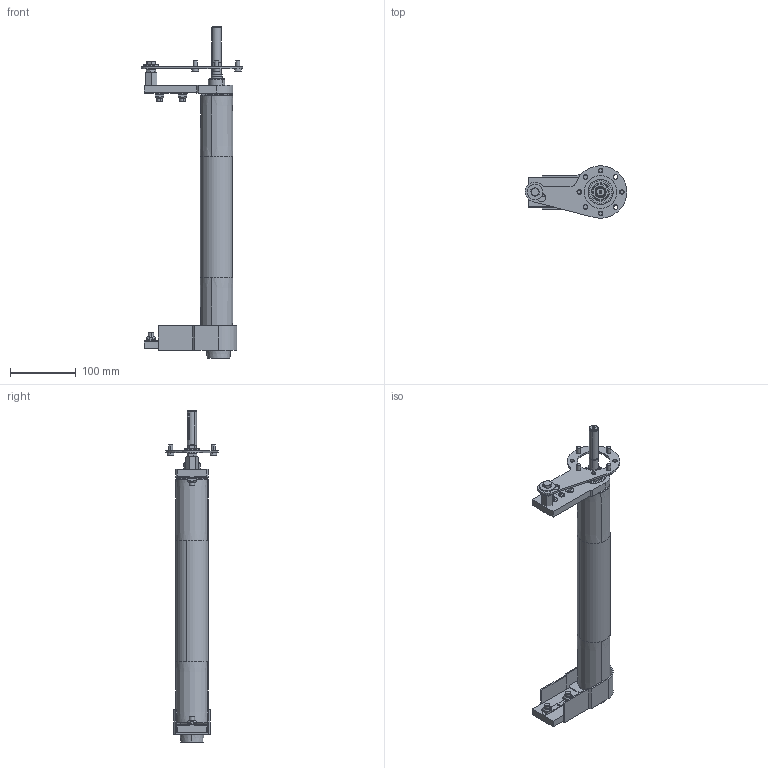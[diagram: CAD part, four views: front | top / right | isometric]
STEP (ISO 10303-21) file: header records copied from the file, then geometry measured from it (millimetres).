
FILE_DESCRIPTION (( 'STEP AP203' ), '1' );
FILE_NAME ('084.050.KDC.30.350.STEP', '2019-07-29T10:15:26', ( '' ), ( '' ), 'SwSTEP 2.0', 'SolidWorks 2018', '' );
FILE_SCHEMA (( 'CONFIG_CONTROL_DESIGN' ));
Length unit declared in the file: millimetre
Products named in the file (20): 084.802.017_084.802.017; 084.807.013_084.807.003; 084.050.KDC.30.350; 084.301.000 VITI ALUSIC_084.301.010; 084.811.001; 084.802.023_084.802.023; 084.807.004_084.807.004; VITI TE UNI 5739_M8x25 UNI 5739; 084.302.000 DADI ALUSIC 13x13_084.302.004; 084.815.128_Default<A macchina>; DADI ESAGONALI RIBASSATI UNI 5589_M8 UNI 5589; 084.802.027; 084.811.004; 084.807.005; VITI TSEI UNI 5933_M4x12 UNI 5933; 084.301.000 VITI ALUSIC_084.301.003; GRANI A PUNTA PIATTA UNI 5923_M8x25 UNI 5923; 084.000.A02_CON DADO; RONDELLE FASCIA LARGA UNI 6593_8.4x24 UNI 6593; 084.810.001
Assembly tree (31 placements, depth 3):
  084.050.KDC.30.350
    084.807.004_084.807.004
    084.807.013_084.807.003
    084.802.017_084.802.017  x2
    084.811.004
    084.815.128_Default<A macchina>
    084.810.001  x2
    084.811.001
    084.802.023_084.802.023
    084.000.A02_CON DADO
      084.807.005
      084.802.027
      GRANI A PUNTA PIATTA UNI 5923_M8x25 UNI 5923
      084.301.000 VITI ALUSIC_084.301.010  x4
      DADI ESAGONALI RIBASSATI UNI 5589_M8 UNI 5589
      RONDELLE FASCIA LARGA UNI 6593_8.4x24 UNI 6593
      VITI TE UNI 5739_M8x25 UNI 5739
    084.301.000 VITI ALUSIC_084.301.003  x4
    084.302.000 DADI ALUSIC 13x13_084.302.004  x4
    VITI TSEI UNI 5933_M4x12 UNI 5933  x2
Bounding box: 154.99 x 80 x 506.5 mm (x, y, z)
Volume: 497740.6 mm3; surface area: 319311.9 mm2
Topology: 32 solids, 34 shells, 909 faces, 2222 edges, 1432 vertices
Faces by surface type: plane 392, cylinder 267, cone 110, torus 78, bspline 54, sphere 8
Entity records: 22731 total; most frequent: CARTESIAN_POINT 4664, DIRECTION 3293, ORIENTED_EDGE 3212, EDGE_CURVE 1606, AXIS2_PLACEMENT_3D 1257, VERTEX_POINT 1040, LINE 779, VECTOR 779
